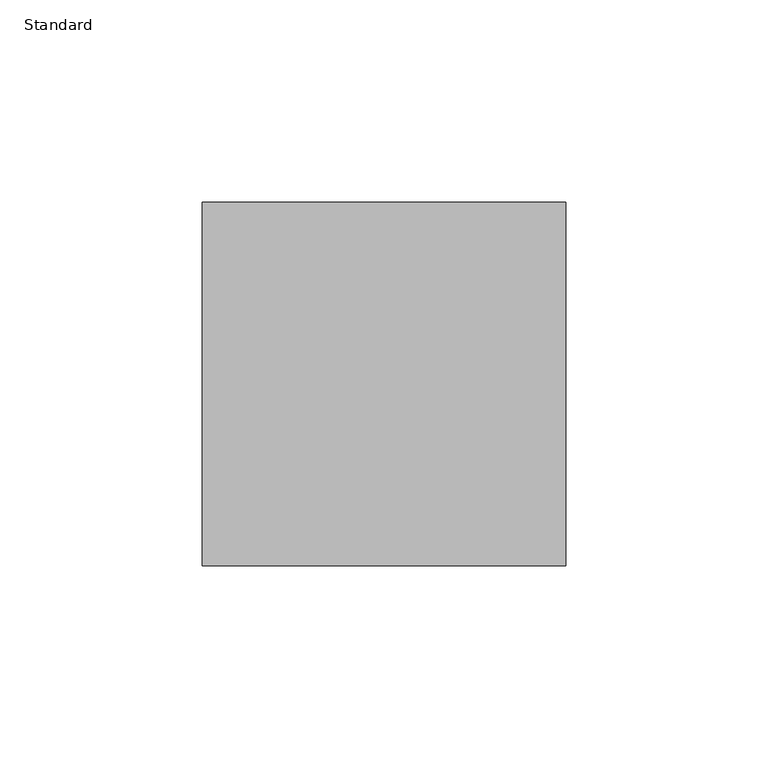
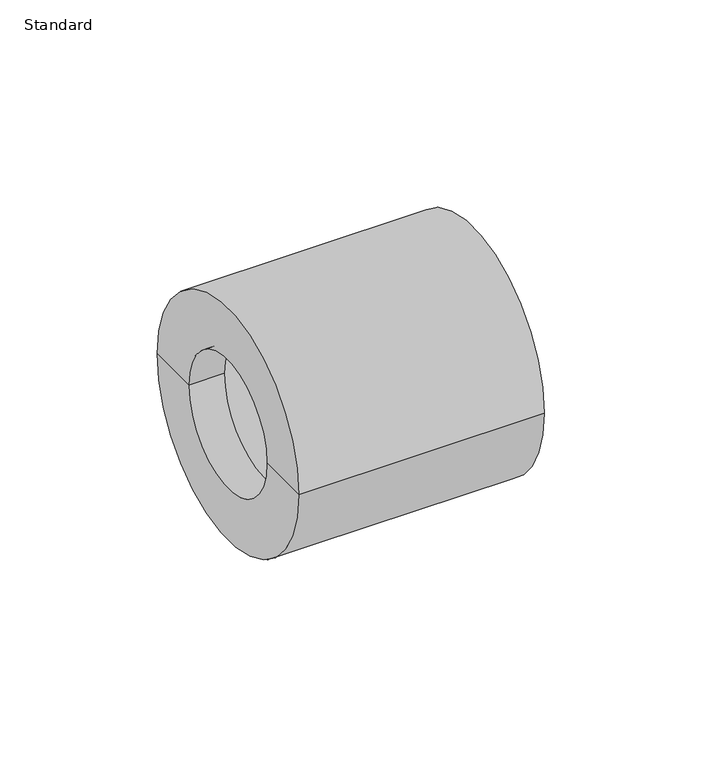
"""IFC4 building model written with IfcOpenShell, lengths in millimetres: pipe fitting geometry, Durapipe_PipeFitting_PVC_ReducingBush : Standard."""

from ifc_helpers import new_model, si_unit, frame, origin, place, context, project, spatial, polyline, circle_curve, source, transform, mapped, element, save
from ifc_brep_helpers import plane_surface, cylinder_surface, revolved_surface, advanced_brep


def standard_6fe0a5c0(model_context):
    return source(origin(), model_context, "Body", "AdvancedBrep", [
        advanced_brep(
        [(-13.0, -25.0, 0.0), (-13.0, 25.0, 0.0), (-13.0, 45.0, 0.0), (-13.0, -45.0, 0.0), (0.0, -25.0, 0.0), (0.0, 25.0, 0.0), (0.0, -31.5, 0.0), (0.0, 31.5, 0.0), (77.0, -31.5, 0.0), (77.0, 31.5, 0.0), (77.0, -45.0, 0.0), (77.0, 45.0, 0.0)],
        [
            (0, 1, circle_curve(frame((-13.0, 0.0, 0.0), z_axis=(1.0, 0.0, 0.0), x_axis=(0.0, 1.0, 0.0)), 25.0)),
            (1, 2),
            (2, 3, circle_curve(frame((-13.0, 0.0, 0.0), z_axis=(-1.0, 0.0, 0.0), x_axis=(0.0, 1.0, 0.0)), 45.0)),
            (3, 0),
            (1, 0, circle_curve(frame((-13.0, 0.0, 0.0), z_axis=(1.0, 0.0, 0.0), x_axis=(0.0, 1.0, 0.0)), 25.0)),
            (3, 2, circle_curve(frame((-13.0, 0.0, 0.0), z_axis=(-1.0, 0.0, 0.0), x_axis=(0.0, 1.0, 0.0)), 45.0)),
            (4, 5, circle_curve(frame((0.0, 0.0, 0.0), z_axis=(1.0, 0.0, 0.0), x_axis=(0.0, 1.0, 0.0)), 25.0)),
            (5, 1),
            (0, 4),
            (5, 4, circle_curve(frame((0.0, 0.0, 0.0), z_axis=(1.0, 0.0, 0.0), x_axis=(0.0, 1.0, 0.0)), 25.0)),
            (6, 7, circle_curve(frame((0.0, 0.0, 0.0), z_axis=(1.0, 0.0, 0.0), x_axis=(0.0, 1.0, 0.0)), 31.5)),
            (7, 5),
            (4, 6),
            (7, 6, circle_curve(frame((0.0, 0.0, 0.0), z_axis=(1.0, 0.0, 0.0), x_axis=(0.0, 1.0, 0.0)), 31.5)),
            (8, 9, circle_curve(frame((77.0, 0.0, 0.0), z_axis=(1.0, 0.0, 0.0), x_axis=(0.0, 1.0, 0.0)), 31.5)),
            (9, 7),
            (6, 8),
            (9, 8, circle_curve(frame((77.0, 0.0, 0.0), z_axis=(1.0, 0.0, 0.0), x_axis=(0.0, 1.0, 0.0)), 31.5)),
            (10, 11, circle_curve(frame((77.0, 0.0, 0.0), z_axis=(1.0, 0.0, 0.0), x_axis=(0.0, 1.0, 0.0)), 45.0)),
            (11, 9),
            (8, 10),
            (11, 10, circle_curve(frame((77.0, 0.0, 0.0), z_axis=(1.0, 0.0, 0.0), x_axis=(0.0, 1.0, 0.0)), 45.0)),
            (2, 11),
            (10, 3),
        ],
        [
            plane_surface(frame((-13.0, 0.0, 0.0), z_axis=(-1.0, 0.0, 0.0), x_axis=(0.0, 1.0, 0.0))),
            revolved_surface(polyline([(-13.0, 25.0, 0.0), (0.0, 25.0, 0.0)]), (2063.0, 0.0, 0.0), (-1.0, 0.0, 0.0)),
            plane_surface(frame((0.0, 0.0, 0.0), z_axis=(1.0, 0.0, 0.0), x_axis=(0.0, 1.0, 0.0))),
            revolved_surface(polyline([(0.0, 31.5, 0.0), (77.0, 31.5, 0.0)]), (2063.0, 0.0, 0.0), (-1.0, 0.0, 0.0)),
            plane_surface(frame((77.0, 0.0, 0.0), z_axis=(1.0, 0.0, 0.0), x_axis=(0.0, 1.0, 0.0))),
            cylinder_surface(frame((2063.0, 0.0, 0.0), z_axis=(-1.0, 0.0, 0.0), x_axis=(0.0, 1.0, 0.0)), 45.0),
        ],
        [
            (0, [[1, 2, 3, 4]]),
            (0, [[5, -4, 6, -2]]),
            (1, [[7, 8, -1, 9]]),
            (1, [[10, -9, -5, -8]]),
            (2, [[11, 12, -7, 13]]),
            (2, [[14, -13, -10, -12]]),
            (3, [[15, 16, -11, 17]]),
            (3, [[18, -17, -14, -16]]),
            (4, [[19, 20, -15, 21]]),
            (4, [[22, -21, -18, -20]]),
            (5, [[-3, 23, -19, 24]]),
            (5, [[-6, -24, -22, -23]]),
        ],
    ),
    ])


if __name__ == "__main__":
    model = new_model("IFC4")
    model_context = context("Model", 3, world=origin())
    ifc_project = project(units=[si_unit("LENGTHUNIT", "METRE", prefix="MILLI")], contexts=[model_context])
    site = spatial("IfcSite", under=ifc_project)
    building = spatial("IfcBuilding", under=site)
    placement = place(None, origin())
    standard_shape = standard_6fe0a5c0(model_context)
    element("IfcPipeFitting", 1, ObjectType="Durapipe_PipeFitting_PVC_ReducingBush : Standard", at=placement, inside=building, context=model_context, shape_type="MappedRepresentation", body=[
        mapped(standard_shape, transform((0.0, 0.0, 0.0), x_axis=(1.0, 0.0, 0.0), y_axis=(0.0, 1.0, 0.0), z_axis=(0.0, 0.0, 1.0))),
    ])
    save(model, "model.ifc")
